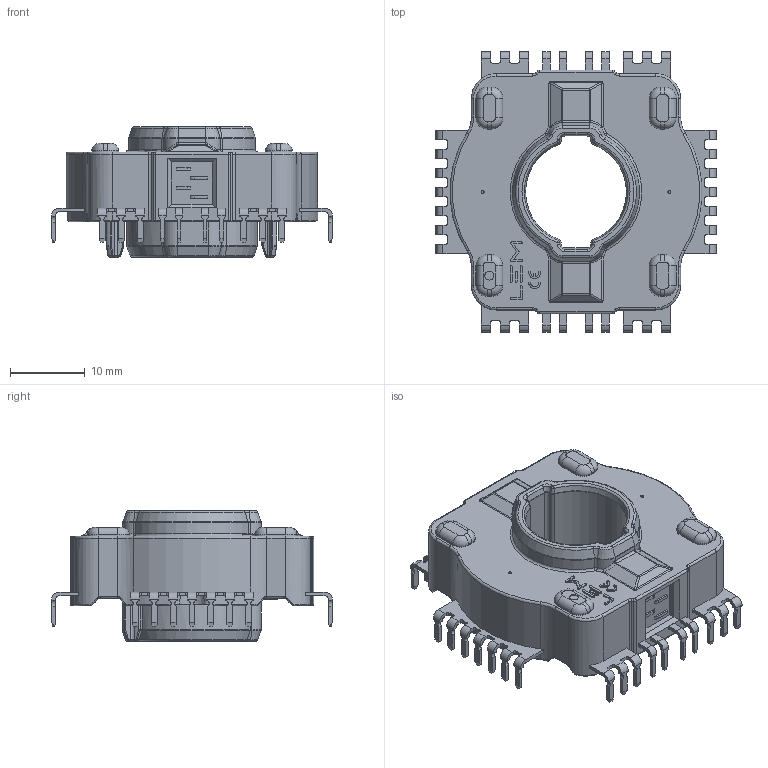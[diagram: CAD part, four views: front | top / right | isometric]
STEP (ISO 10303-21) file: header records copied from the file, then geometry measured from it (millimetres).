
FILE_DESCRIPTION(('Creo Elements/Direct Modeling STEP Export'),'2;1');
FILE_NAME('20191127_BB_HC16F S00.stp','2019-11-27T14:23:05',(''),(''),'Creo Elements/Direct Modeling STEP processor for AP214 (Solid Model)','Creo Elements/Direct Modeling 20.1 10-Mar-2018 (C) Parametric Technology GmbH','');
FILE_SCHEMA(('AUTOMOTIVE_DESIGN { 1 0 10303 214 1 1 1 1 }'));
Products named in the file (2): 20191127_BB_PTH
Assembly tree (1 placements, depth 2):
  20191127_BB_PTH
    20191127_BB_PTH
Bounding box: 37.5 x 37.5 x 17.4 mm (x, y, z)
Volume: 7858.4 mm3; surface area: 4900 mm2
Topology: 1 solids, 1 shells, 2054 faces, 5434 edges, 3434 vertices
Faces by surface type: plane 1176, cylinder 465, torus 208, bspline 146, cone 47, sphere 12
Entity records: 80745 total; most frequent: CARTESIAN_POINT 31053, ORIENTED_EDGE 10844, DIRECTION 9787, EDGE_CURVE 5422, VECTOR 3739, LINE 3739, VERTEX_POINT 3434, AXIS2_PLACEMENT_3D 3024
